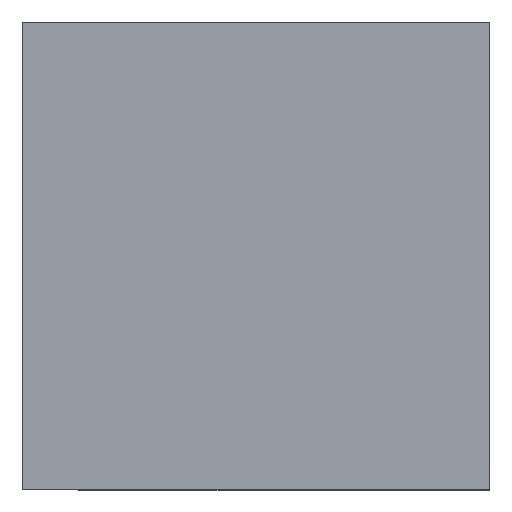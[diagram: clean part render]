
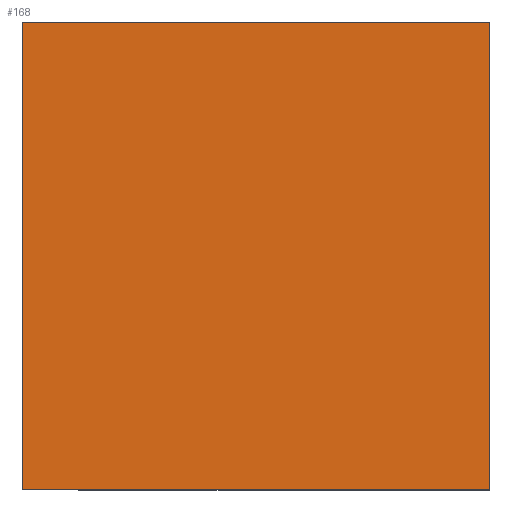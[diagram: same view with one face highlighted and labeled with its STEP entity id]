
A CAD part, top view. The second image highlights one B-rep face of the part: STEP entity #168.
In plain terms, the highlighted planar face has unit normal (0, 0, 1).
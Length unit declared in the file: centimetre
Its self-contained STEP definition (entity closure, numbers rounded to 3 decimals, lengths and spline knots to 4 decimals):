
#44 = EDGE_CURVE ( 'NONE', #530, #484, #140, .T. ) ;
#45 = LINE ( 'NONE', #241, #687 ) ;
#120 = CARTESIAN_POINT ( 'NONE',  ( 0., 0., 1000. ) ) ;
#128 = EDGE_CURVE ( 'NONE', #423, #465, #570, .T. ) ;
#140 = LINE ( 'NONE', #404, #276 ) ;
#154 = VECTOR ( 'NONE', #683, 100. ) ;
#168 = ADVANCED_FACE ( 'NONE', ( #430 ), #583, .T. ) ;
#184 = DIRECTION ( 'NONE',  ( 0., 0., 1. ) ) ;
#198 = DIRECTION ( 'NONE',  ( 0., 1., 0. ) ) ;
#223 = CARTESIAN_POINT ( 'NONE',  ( 0., 1000., 1000. ) ) ;
#231 = CARTESIAN_POINT ( 'NONE',  ( 0., 1000., 1000. ) ) ;
#241 = CARTESIAN_POINT ( 'NONE',  ( 0., 0., 1000. ) ) ;
#276 = VECTOR ( 'NONE', #198, 100. ) ;
#296 = LINE ( 'NONE', #231, #154 ) ;
#371 = DIRECTION ( 'NONE',  ( 1., 0., 0. ) ) ;
#404 = CARTESIAN_POINT ( 'NONE',  ( 1000., 1000., 1000. ) ) ;
#423 = VERTEX_POINT ( 'NONE', #223 ) ;
#430 = FACE_OUTER_BOUND ( 'NONE', #755, .T. ) ;
#465 = VERTEX_POINT ( 'NONE', #735 ) ;
#484 = VERTEX_POINT ( 'NONE', #597 ) ;
#486 = ORIENTED_EDGE ( 'NONE', *, *, #44, .T. ) ;
#530 = VERTEX_POINT ( 'NONE', #649 ) ;
#562 = ORIENTED_EDGE ( 'NONE', *, *, #128, .T. ) ;
#565 = EDGE_CURVE ( 'NONE', #465, #530, #45, .T. ) ;
#570 = LINE ( 'NONE', #790, #859 ) ;
#583 = PLANE ( 'NONE',  #707 ) ;
#597 = CARTESIAN_POINT ( 'NONE',  ( 1000., 1000., 1000. ) ) ;
#649 = CARTESIAN_POINT ( 'NONE',  ( 1000., 0., 1000. ) ) ;
#683 = DIRECTION ( 'NONE',  ( -1., 0., 0. ) ) ;
#687 = VECTOR ( 'NONE', #730, 100. ) ;
#707 = AXIS2_PLACEMENT_3D ( 'NONE', #120, #184, #371 ) ;
#730 = DIRECTION ( 'NONE',  ( 1., 0., 0. ) ) ;
#735 = CARTESIAN_POINT ( 'NONE',  ( 0., 0., 1000. ) ) ;
#742 = ORIENTED_EDGE ( 'NONE', *, *, #565, .T. ) ;
#755 = EDGE_LOOP ( 'NONE', ( #562, #742, #486, #767 ) ) ;
#767 = ORIENTED_EDGE ( 'NONE', *, *, #782, .T. ) ;
#782 = EDGE_CURVE ( 'NONE', #484, #423, #296, .T. ) ;
#790 = CARTESIAN_POINT ( 'NONE',  ( 0., 1000., 1000. ) ) ;
#840 = DIRECTION ( 'NONE',  ( 0., -1., 0. ) ) ;
#859 = VECTOR ( 'NONE', #840, 100. ) ;
